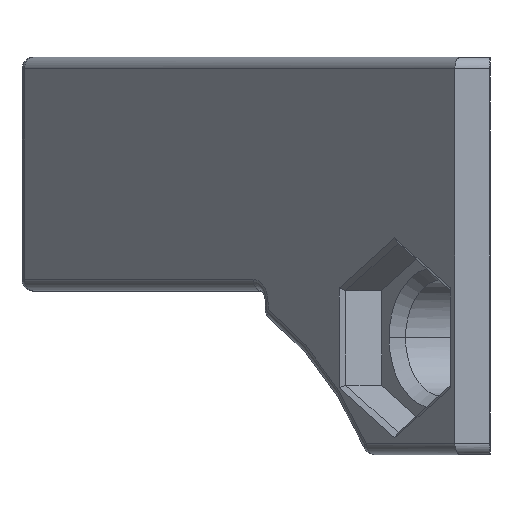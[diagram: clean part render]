
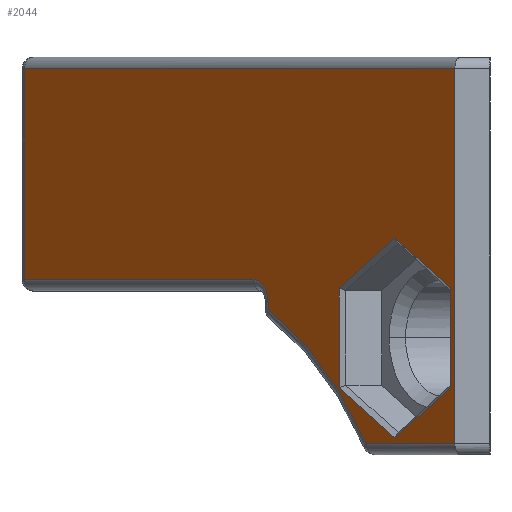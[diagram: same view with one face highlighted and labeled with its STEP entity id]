
A CAD part, left-side view. The second image highlights one B-rep face of the part: STEP entity #2044.
In plain terms, the highlighted planar face has unit normal (-0.643, 0.766, 0).
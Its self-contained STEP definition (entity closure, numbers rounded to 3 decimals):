
#942=DIRECTION('',(-0.766,-0.643,0.));
#943=VECTOR('',#942,28.599);
#944=CARTESIAN_POINT('',(44.554,19.883,27.5));
#945=LINE('',#944,#943);
#949=DIRECTION('',(0.,0.,-1.));
#950=VECTOR('',#949,16.);
#951=CARTESIAN_POINT('',(22.646,1.5,27.5));
#952=LINE('',#951,#950);
#956=DIRECTION('',(0.766,0.643,0.));
#957=VECTOR('',#956,5.902);
#958=CARTESIAN_POINT('',(22.646,1.5,11.5));
#959=LINE('',#958,#957);
#963=CARTESIAN_POINT('',(37.967,14.356,2.));
#964=DIRECTION('',(0.643,-0.766,0.));
#965=DIRECTION('',(-0.341,-0.286,0.895));
#966=AXIS2_PLACEMENT_3D('',#963,#964,#965);
#971=DIRECTION('',(0.,0.,1.));
#972=VECTOR('',#971,0.282);
#973=CARTESIAN_POINT('',(32.163,9.485,17.218));
#974=LINE('',#973,#972);
#978=CARTESIAN_POINT('',(32.929,10.128,17.5));
#979=DIRECTION('',(0.643,-0.766,0.));
#980=DIRECTION('',(0.,0.,1.));
#981=AXIS2_PLACEMENT_3D('',#978,#979,#980);
#986=DIRECTION('',(0.766,0.643,0.));
#987=VECTOR('',#986,15.176);
#988=CARTESIAN_POINT('',(32.929,10.128,18.5));
#989=LINE('',#988,#987);
#993=DIRECTION('',(0.,0.,1.));
#994=VECTOR('',#993,9.);
#995=CARTESIAN_POINT('',(44.554,19.883,18.5));
#996=LINE('',#995,#994);
#1000=DIRECTION('',(0.,0.,-1.));
#1001=VECTOR('',#1000,4.272);
#1002=CARTESIAN_POINT('',(22.876,1.693,18.136));
#1003=LINE('',#1002,#1001);
#1007=DIRECTION('',(-0.663,-0.557,-0.5));
#1008=VECTOR('',#1007,4.272);
#1009=CARTESIAN_POINT('',(25.71,4.071,20.272));
#1010=LINE('',#1009,#1008);
#1014=DIRECTION('',(-0.663,-0.557,0.5));
#1015=VECTOR('',#1014,4.272);
#1016=CARTESIAN_POINT('',(28.545,6.449,18.136));
#1017=LINE('',#1016,#1015);
#1021=DIRECTION('',(0.,0.,1.));
#1022=VECTOR('',#1021,4.272);
#1023=CARTESIAN_POINT('',(28.545,6.449,13.864));
#1024=LINE('',#1023,#1022);
#1028=DIRECTION('',(0.663,0.557,0.5));
#1029=VECTOR('',#1028,4.272);
#1030=CARTESIAN_POINT('',(25.71,4.071,11.728));
#1031=LINE('',#1030,#1029);
#1035=DIRECTION('',(0.663,0.557,-0.5));
#1036=VECTOR('',#1035,4.272);
#1037=CARTESIAN_POINT('',(22.876,1.693,13.864));
#1038=LINE('',#1037,#1036);
#1408=CARTESIAN_POINT('',(22.646,1.5,27.5));
#1409=VERTEX_POINT('',#1408);
#1412=CARTESIAN_POINT('',(44.554,19.883,27.5));
#1413=VERTEX_POINT('',#1412);
#1414=CARTESIAN_POINT('',(44.554,19.883,18.5));
#1415=VERTEX_POINT('',#1414);
#1418=CARTESIAN_POINT('',(32.929,10.128,18.5));
#1419=VERTEX_POINT('',#1418);
#1428=CARTESIAN_POINT('',(32.163,9.485,17.218));
#1429=CARTESIAN_POINT('',(32.163,9.485,17.5));
#1430=VERTEX_POINT('',#1428);
#1431=VERTEX_POINT('',#1429);
#1438=CARTESIAN_POINT('',(22.646,1.5,11.5));
#1439=VERTEX_POINT('',#1438);
#1440=CARTESIAN_POINT('',(27.167,5.294,11.5));
#1441=VERTEX_POINT('',#1440);
#1456=CARTESIAN_POINT('',(22.876,1.693,18.136));
#1457=CARTESIAN_POINT('',(22.876,1.693,13.864));
#1458=VERTEX_POINT('',#1456);
#1459=VERTEX_POINT('',#1457);
#1462=CARTESIAN_POINT('',(25.71,4.071,20.272));
#1463=VERTEX_POINT('',#1462);
#1464=CARTESIAN_POINT('',(28.545,6.449,18.136));
#1465=VERTEX_POINT('',#1464);
#1468=CARTESIAN_POINT('',(28.545,6.449,13.864));
#1469=VERTEX_POINT('',#1468);
#1472=CARTESIAN_POINT('',(25.71,4.071,11.728));
#1473=VERTEX_POINT('',#1472);
#2011=CARTESIAN_POINT('',(44.694,20.,28.));
#2012=DIRECTION('',(-0.643,0.766,0.));
#2013=DIRECTION('',(-0.766,-0.643,0.));
#2014=AXIS2_PLACEMENT_3D('',#2011,#2012,#2013);
#2015=PLANE('',#2014);
#2017=ORIENTED_EDGE('',*,*,#2016,.T.);
#2018=ORIENTED_EDGE('',*,*,#1895,.T.);
#2020=ORIENTED_EDGE('',*,*,#2019,.T.);
#2022=ORIENTED_EDGE('',*,*,#2021,.F.);
#2024=ORIENTED_EDGE('',*,*,#2023,.T.);
#2025=ORIENTED_EDGE('',*,*,#2002,.F.);
#2026=ORIENTED_EDGE('',*,*,#1771,.T.);
#2027=ORIENTED_EDGE('',*,*,#1798,.T.);
#2028=EDGE_LOOP('',(#2017,#2018,#2020,#2022,#2024,#2025,#2026,#2027));
#2029=FACE_OUTER_BOUND('',#2028,.F.);
#2031=ORIENTED_EDGE('',*,*,#2030,.F.);
#2033=ORIENTED_EDGE('',*,*,#2032,.F.);
#2035=ORIENTED_EDGE('',*,*,#2034,.F.);
#2037=ORIENTED_EDGE('',*,*,#2036,.F.);
#2039=ORIENTED_EDGE('',*,*,#2038,.F.);
#2041=ORIENTED_EDGE('',*,*,#2040,.F.);
#2042=EDGE_LOOP('',(#2031,#2033,#2035,#2037,#2039,#2041));
#2043=FACE_BOUND('',#2042,.F.);
#967=CIRCLE('',#966,17.);
#982=CIRCLE('',#981,1.);
#1771=EDGE_CURVE('',#1419,#1415,#989,.T.);
#1798=EDGE_CURVE('',#1415,#1413,#996,.T.);
#1895=EDGE_CURVE('',#1409,#1439,#952,.T.);
#2002=EDGE_CURVE('',#1419,#1431,#982,.T.);
#2016=EDGE_CURVE('',#1413,#1409,#945,.T.);
#2019=EDGE_CURVE('',#1439,#1441,#959,.T.);
#2021=EDGE_CURVE('',#1430,#1441,#967,.T.);
#2023=EDGE_CURVE('',#1430,#1431,#974,.T.);
#2030=EDGE_CURVE('',#1458,#1459,#1003,.T.);
#2032=EDGE_CURVE('',#1463,#1458,#1010,.T.);
#2034=EDGE_CURVE('',#1465,#1463,#1017,.T.);
#2036=EDGE_CURVE('',#1469,#1465,#1024,.T.);
#2038=EDGE_CURVE('',#1473,#1469,#1031,.T.);
#2040=EDGE_CURVE('',#1459,#1473,#1038,.T.);
#2044=ADVANCED_FACE('',(#2029,#2043),#2015,.T.);
